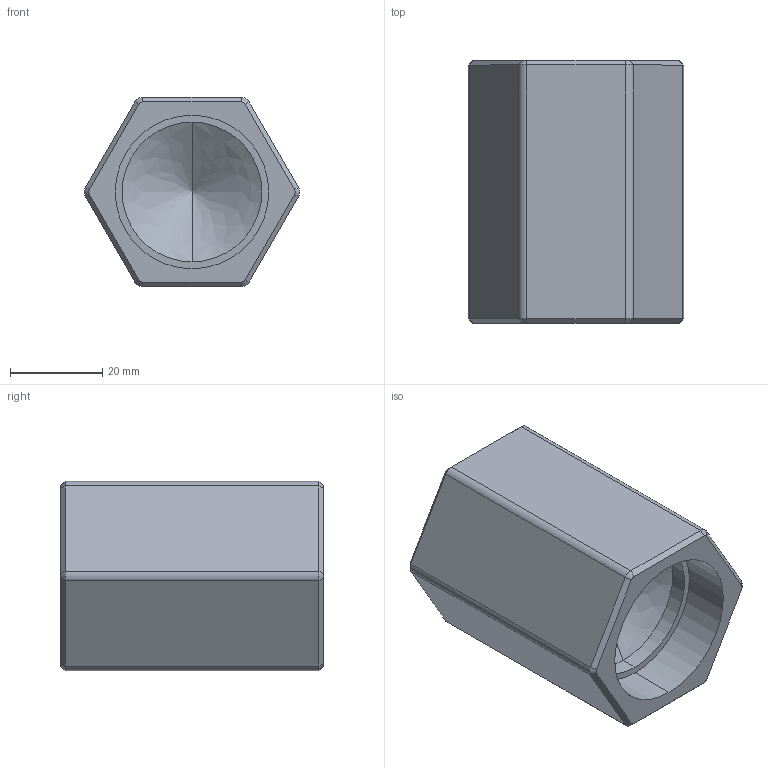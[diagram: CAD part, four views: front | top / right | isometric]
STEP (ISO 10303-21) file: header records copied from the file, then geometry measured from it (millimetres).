
FILE_DESCRIPTION( (''), '2;1');
FILE_NAME ('PC1276.13840.CF-60 25A_12081.stp','2025-12-10T12:52:27',(''),(''),'spGate 20.6.3 (****-****-****-****)','','');
FILE_SCHEMA (('AUTOMOTIVE_DESIGN'));
Length unit declared in the file: millimetre
Bounding box: 46.72 x 57 x 41 mm (x, y, z)
Volume: 55323.4 mm3; surface area: 13846.5 mm2
Topology: 1 solids, 1 shells, 52 faces, 116 edges, 66 vertices
Faces by surface type: plane 22, bspline 16, cylinder 14
Entity records: 2389 total; most frequent: CARTESIAN_POINT 338, ORIENTED_EDGE 224, DIRECTION 212, COLOUR_RGB 165, PRESENTATION_STYLE_ASSIGNMENT 165, STYLED_ITEM 165, EDGE_CURVE 112, DRAUGHTING_PRE_DEFINED_CURVE_FONT 112
